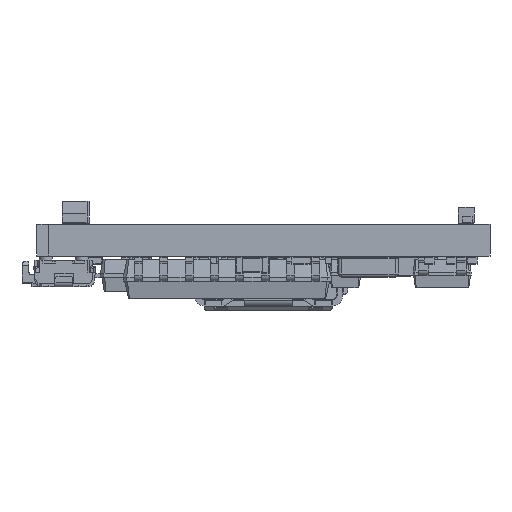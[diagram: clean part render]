
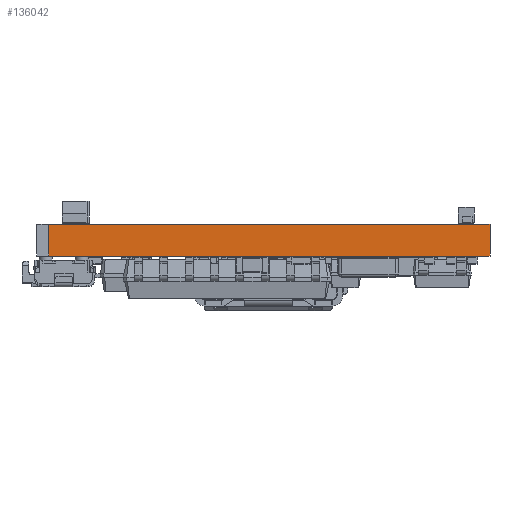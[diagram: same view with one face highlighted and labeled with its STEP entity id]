
A CAD part, front view. The second image highlights one B-rep face of the part: STEP entity #136042.
In plain terms, the highlighted planar face has unit normal (0, -1, 0).
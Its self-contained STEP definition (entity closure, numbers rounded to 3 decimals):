
#135404 = PLANE('',#135405);
#135405 = AXIS2_PLACEMENT_3D('',#135406,#135407,#135408);
#135406 = CARTESIAN_POINT('',(64.15,-68.25,1.6));
#135407 = DIRECTION('',(0.,0.,1.));
#135408 = DIRECTION('',(1.,0.,0.));
#135458 = PLANE('',#135459);
#135459 = AXIS2_PLACEMENT_3D('',#135460,#135461,#135462);
#135460 = CARTESIAN_POINT('',(64.15,-68.25,0.));
#135461 = DIRECTION('',(0.,0.,1.));
#135462 = DIRECTION('',(1.,0.,0.));
#135491 = PLANE('',#135492);
#135492 = AXIS2_PLACEMENT_3D('',#135493,#135494,#135495);
#135493 = CARTESIAN_POINT('',(75.5,-80.5,0.));
#135494 = DIRECTION('',(-1.,0.,0.));
#135495 = DIRECTION('',(0.,1.,0.));
#135679 = VERTEX_POINT('',#135680);
#135680 = CARTESIAN_POINT('',(53.4,-80.5,0.));
#135694 = PLANE('',#135695);
#135695 = AXIS2_PLACEMENT_3D('',#135696,#135697,#135698);
#135696 = CARTESIAN_POINT('',(52.8,-80.5,0.));
#135697 = DIRECTION('',(0.,1.,0.));
#135698 = DIRECTION('',(1.,0.,0.));
#135706 = EDGE_CURVE('',#135679,#135707,#135709,.T.);
#135707 = VERTEX_POINT('',#135708);
#135708 = CARTESIAN_POINT('',(75.5,-80.5,0.));
#135709 = SURFACE_CURVE('',#135710,(#135714,#135721),.PCURVE_S1.);
#135710 = LINE('',#135711,#135712);
#135711 = CARTESIAN_POINT('',(53.4,-80.5,0.));
#135712 = VECTOR('',#135713,1.);
#135713 = DIRECTION('',(1.,0.,0.));
#135714 = PCURVE('',#135458,#135715);
#135715 = DEFINITIONAL_REPRESENTATION('',(#135716),#135720);
#135716 = LINE('',#135717,#135718);
#135717 = CARTESIAN_POINT('',(-10.75,-12.25));
#135718 = VECTOR('',#135719,1.);
#135719 = DIRECTION('',(1.,0.));
#135720 = ( GEOMETRIC_REPRESENTATION_CONTEXT(2) 
PARAMETRIC_REPRESENTATION_CONTEXT() REPRESENTATION_CONTEXT('2D SPACE',''
  ) );
#135721 = PCURVE('',#135722,#135727);
#135722 = PLANE('',#135723);
#135723 = AXIS2_PLACEMENT_3D('',#135724,#135725,#135726);
#135724 = CARTESIAN_POINT('',(53.4,-80.5,0.));
#135725 = DIRECTION('',(0.,1.,0.));
#135726 = DIRECTION('',(1.,0.,0.));
#135727 = DEFINITIONAL_REPRESENTATION('',(#135728),#135732);
#135728 = LINE('',#135729,#135730);
#135729 = CARTESIAN_POINT('',(0.,0.));
#135730 = VECTOR('',#135731,1.);
#135731 = DIRECTION('',(1.,0.));
#135732 = ( GEOMETRIC_REPRESENTATION_CONTEXT(2) 
PARAMETRIC_REPRESENTATION_CONTEXT() REPRESENTATION_CONTEXT('2D SPACE',''
  ) );
#135870 = VERTEX_POINT('',#135871);
#135871 = CARTESIAN_POINT('',(53.4,-80.5,1.6));
#135892 = EDGE_CURVE('',#135870,#135893,#135895,.T.);
#135893 = VERTEX_POINT('',#135894);
#135894 = CARTESIAN_POINT('',(75.5,-80.5,1.6));
#135895 = SURFACE_CURVE('',#135896,(#135900,#135907),.PCURVE_S1.);
#135896 = LINE('',#135897,#135898);
#135897 = CARTESIAN_POINT('',(53.4,-80.5,1.6));
#135898 = VECTOR('',#135899,1.);
#135899 = DIRECTION('',(1.,0.,0.));
#135900 = PCURVE('',#135404,#135901);
#135901 = DEFINITIONAL_REPRESENTATION('',(#135902),#135906);
#135902 = LINE('',#135903,#135904);
#135903 = CARTESIAN_POINT('',(-10.75,-12.25));
#135904 = VECTOR('',#135905,1.);
#135905 = DIRECTION('',(1.,0.));
#135906 = ( GEOMETRIC_REPRESENTATION_CONTEXT(2) 
PARAMETRIC_REPRESENTATION_CONTEXT() REPRESENTATION_CONTEXT('2D SPACE',''
  ) );
#135907 = PCURVE('',#135722,#135908);
#135908 = DEFINITIONAL_REPRESENTATION('',(#135909),#135913);
#135909 = LINE('',#135910,#135911);
#135910 = CARTESIAN_POINT('',(0.,-1.6));
#135911 = VECTOR('',#135912,1.);
#135912 = DIRECTION('',(1.,0.));
#135913 = ( GEOMETRIC_REPRESENTATION_CONTEXT(2) 
PARAMETRIC_REPRESENTATION_CONTEXT() REPRESENTATION_CONTEXT('2D SPACE',''
  ) );
#135992 = EDGE_CURVE('',#135707,#135893,#135993,.T.);
#135993 = SURFACE_CURVE('',#135994,(#135998,#136005),.PCURVE_S1.);
#135994 = LINE('',#135995,#135996);
#135995 = CARTESIAN_POINT('',(75.5,-80.5,0.));
#135996 = VECTOR('',#135997,1.);
#135997 = DIRECTION('',(0.,0.,1.));
#135998 = PCURVE('',#135491,#135999);
#135999 = DEFINITIONAL_REPRESENTATION('',(#136000),#136004);
#136000 = LINE('',#136001,#136002);
#136001 = CARTESIAN_POINT('',(0.,0.));
#136002 = VECTOR('',#136003,1.);
#136003 = DIRECTION('',(0.,-1.));
#136004 = ( GEOMETRIC_REPRESENTATION_CONTEXT(2) 
PARAMETRIC_REPRESENTATION_CONTEXT() REPRESENTATION_CONTEXT('2D SPACE',''
  ) );
#136005 = PCURVE('',#135722,#136006);
#136006 = DEFINITIONAL_REPRESENTATION('',(#136007),#136011);
#136007 = LINE('',#136008,#136009);
#136008 = CARTESIAN_POINT('',(22.1,0.));
#136009 = VECTOR('',#136010,1.);
#136010 = DIRECTION('',(0.,-1.));
#136011 = ( GEOMETRIC_REPRESENTATION_CONTEXT(2) 
PARAMETRIC_REPRESENTATION_CONTEXT() REPRESENTATION_CONTEXT('2D SPACE',''
  ) );
#136042 = ADVANCED_FACE('',(#136043),#135722,.F.);
#136043 = FACE_BOUND('',#136044,.F.);
#136044 = EDGE_LOOP('',(#136045,#136066,#136067,#136068));
#136045 = ORIENTED_EDGE('',*,*,#136046,.T.);
#136046 = EDGE_CURVE('',#135679,#135870,#136047,.T.);
#136047 = SURFACE_CURVE('',#136048,(#136052,#136059),.PCURVE_S1.);
#136048 = LINE('',#136049,#136050);
#136049 = CARTESIAN_POINT('',(53.4,-80.5,0.));
#136050 = VECTOR('',#136051,1.);
#136051 = DIRECTION('',(0.,0.,1.));
#136052 = PCURVE('',#135722,#136053);
#136053 = DEFINITIONAL_REPRESENTATION('',(#136054),#136058);
#136054 = LINE('',#136055,#136056);
#136055 = CARTESIAN_POINT('',(0.,0.));
#136056 = VECTOR('',#136057,1.);
#136057 = DIRECTION('',(0.,-1.));
#136058 = ( GEOMETRIC_REPRESENTATION_CONTEXT(2) 
PARAMETRIC_REPRESENTATION_CONTEXT() REPRESENTATION_CONTEXT('2D SPACE',''
  ) );
#136059 = PCURVE('',#135694,#136060);
#136060 = DEFINITIONAL_REPRESENTATION('',(#136061),#136065);
#136061 = LINE('',#136062,#136063);
#136062 = CARTESIAN_POINT('',(0.6,0.));
#136063 = VECTOR('',#136064,1.);
#136064 = DIRECTION('',(0.,-1.));
#136065 = ( GEOMETRIC_REPRESENTATION_CONTEXT(2) 
PARAMETRIC_REPRESENTATION_CONTEXT() REPRESENTATION_CONTEXT('2D SPACE',''
  ) );
#136066 = ORIENTED_EDGE('',*,*,#135892,.T.);
#136067 = ORIENTED_EDGE('',*,*,#135992,.F.);
#136068 = ORIENTED_EDGE('',*,*,#135706,.F.);
